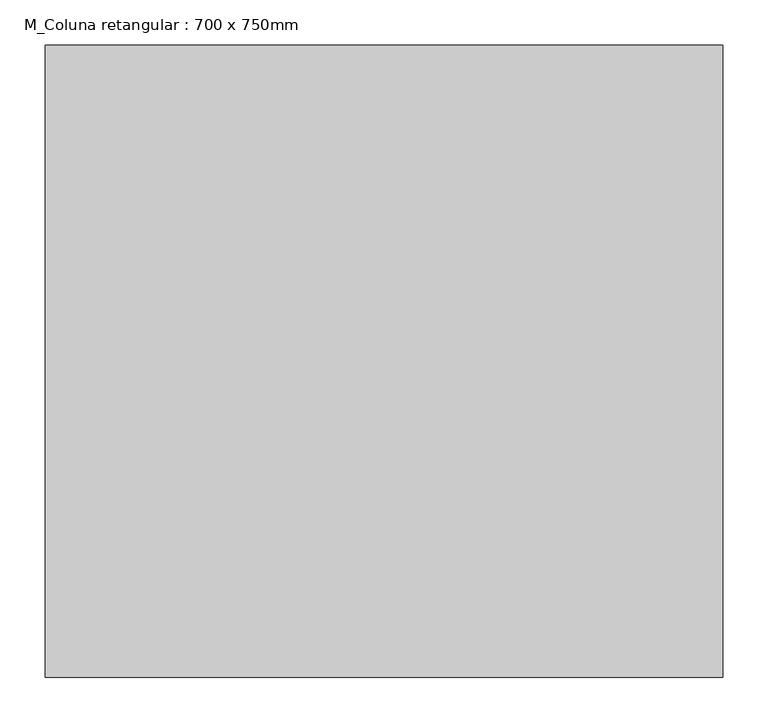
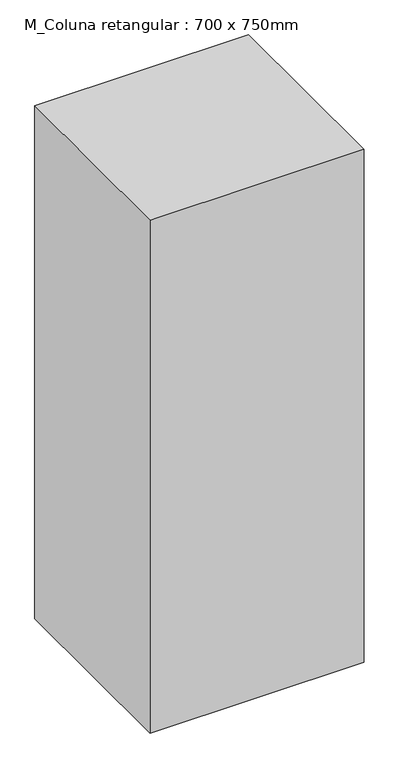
"""IFC4 building model written with IfcOpenShell, lengths in millimetres: column geometry, M_Coluna retangular : 700 x 750mm."""

from ifc_helpers import new_model, si_unit, frame, origin, place, context, project, spatial, polyline, outline, extrude, source, transform, mapped, element, save


def m_coluna_retangular_700_x_750mm_9828c56a(model_context):
    return source(origin(), model_context, "Body", "SweptSolid", [
        extrude(outline(polyline([(375.0, 350.0), (375.0, -350.0), (-375.0, -350.0), (-375.0, 350.0), (375.0, 350.0)])), frame((0.0, 0.0, -1900.0), z_axis=(0.0, 0.0, 1.0), x_axis=(1.0, 0.0, 0.0)), (0.0, 0.0, 1.0), 1900.0),
    ])


if __name__ == "__main__":
    model = new_model("IFC4")
    model_context = context("Model", 3, world=origin())
    ifc_project = project(units=[si_unit("LENGTHUNIT", "METRE", prefix="MILLI")], contexts=[model_context])
    site = spatial("IfcSite", under=ifc_project)
    building = spatial("IfcBuilding", under=site)
    placement = place(None, origin())
    m_coluna_retangular_700_x_750mm_shape = m_coluna_retangular_700_x_750mm_9828c56a(model_context)
    element("IfcColumn", 1, ObjectType="M_Coluna retangular : 700 x 750mm", at=placement, inside=building, context=model_context, shape_type="MappedRepresentation", body=[
        mapped(m_coluna_retangular_700_x_750mm_shape, transform((0.0, 0.0, 0.0), x_axis=(1.0, 0.0, 0.0), y_axis=(0.0, 1.0, 0.0), z_axis=(0.0, 0.0, 1.0))),
    ])
    save(model, "model.ifc")
